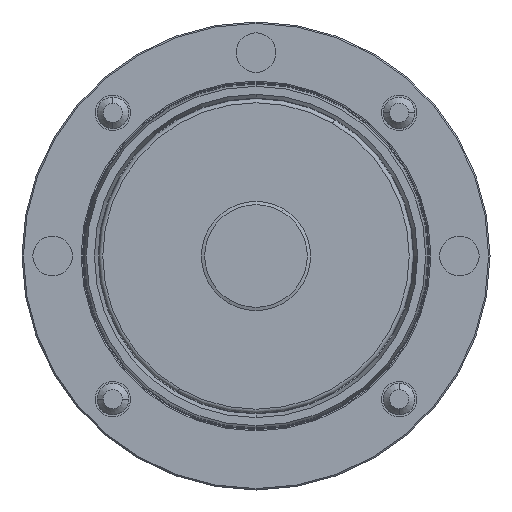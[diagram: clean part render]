
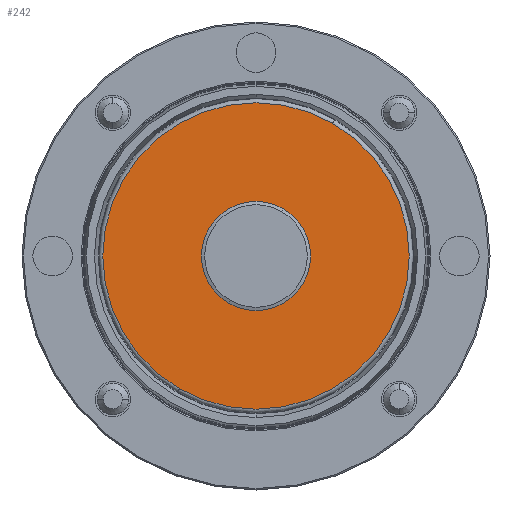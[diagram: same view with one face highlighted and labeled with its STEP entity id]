
A CAD part, front view. The second image highlights one B-rep face of the part: STEP entity #242.
In plain terms, the highlighted planar face has unit normal (0, -1, 0).
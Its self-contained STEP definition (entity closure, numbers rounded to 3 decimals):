
#80 = EDGE_CURVE ( 'NONE', #94, #156, #2665, .T. ) ;
#94 = VERTEX_POINT ( 'NONE', #2722 ) ;
#127 = EDGE_CURVE ( 'NONE', #145, #147, #2561, .T. ) ;
#145 = VERTEX_POINT ( 'NONE', #2798 ) ;
#147 = VERTEX_POINT ( 'NONE', #2814 ) ;
#156 = VERTEX_POINT ( 'NONE', #2843 ) ;
#231 = ORIENTED_EDGE ( 'NONE', *, *, #80, .T. ) ;
#235 = ORIENTED_EDGE ( 'NONE', *, *, #243, .T. ) ;
#242 = ADVANCED_FACE ( 'NONE', ( #2988, #3010 ), #2993, .F. ) ;
#243 = EDGE_CURVE ( 'NONE', #147, #145, #3006, .T. ) ;
#248 = EDGE_LOOP ( 'NONE', ( #235, #258 ) ) ;
#258 = ORIENTED_EDGE ( 'NONE', *, *, #127, .T. ) ;
#383 = ORIENTED_EDGE ( 'NONE', *, *, #388, .T. ) ;
#387 = EDGE_LOOP ( 'NONE', ( #231, #383 ) ) ;
#388 = EDGE_CURVE ( 'NONE', #156, #94, #3242, .T. ) ;
#1392 = DIRECTION ( 'NONE',  ( 0., 0., 1. ) ) ;
#2561 = CIRCLE ( 'NONE', #2580, 38.8 ) ;
#2566 = DIRECTION ( 'NONE',  ( 0., -1., 0. ) ) ;
#2567 = CARTESIAN_POINT ( 'NONE',  ( 0., -17.7, 0. ) ) ;
#2568 = DIRECTION ( 'NONE',  ( 0., 1., 0. ) ) ;
#2579 = CARTESIAN_POINT ( 'NONE',  ( 39.8, -17.7, 0. ) ) ;
#2580 = AXIS2_PLACEMENT_3D ( 'NONE', #2567, #2566, #1392 ) ;
#2665 = CIRCLE ( 'NONE', #2711, 13.824 ) ;
#2672 = DIRECTION ( 'NONE',  ( 0., 1., 0. ) ) ;
#2694 = DIRECTION ( 'NONE',  ( 0., 0., 1. ) ) ;
#2706 = CARTESIAN_POINT ( 'NONE',  ( 0., -17.7, 0. ) ) ;
#2711 = AXIS2_PLACEMENT_3D ( 'NONE', #2706, #2672, #2694 ) ;
#2722 = CARTESIAN_POINT ( 'NONE',  ( 0., -17.7, 13.824 ) ) ;
#2761 = DIRECTION ( 'NONE',  ( 0., 0., 1. ) ) ;
#2789 = DIRECTION ( 'NONE',  ( 0., 0., 1. ) ) ;
#2798 = CARTESIAN_POINT ( 'NONE',  ( 0., -17.7, -38.8 ) ) ;
#2814 = CARTESIAN_POINT ( 'NONE',  ( 0., -17.7, 38.8 ) ) ;
#2843 = CARTESIAN_POINT ( 'NONE',  ( 0., -17.7, -13.824 ) ) ;
#2979 = DIRECTION ( 'NONE',  ( 0., -1., 0. ) ) ;
#2980 = AXIS2_PLACEMENT_3D ( 'NONE', #2994, #2979, #2761 ) ;
#2988 = FACE_OUTER_BOUND ( 'NONE', #248, .T. ) ;
#2990 = AXIS2_PLACEMENT_3D ( 'NONE', #2579, #2568, #2789 ) ;
#2993 = PLANE ( 'NONE',  #2990 ) ;
#2994 = CARTESIAN_POINT ( 'NONE',  ( 0., -17.7, 0. ) ) ;
#3006 = CIRCLE ( 'NONE', #2980, 38.8 ) ;
#3010 = FACE_BOUND ( 'NONE', #387, .T. ) ;
#3231 = DIRECTION ( 'NONE',  ( 0., 0., 1. ) ) ;
#3232 = AXIS2_PLACEMENT_3D ( 'NONE', #3239, #3254, #3231 ) ;
#3239 = CARTESIAN_POINT ( 'NONE',  ( 0., -17.7, 0. ) ) ;
#3242 = CIRCLE ( 'NONE', #3232, 13.824 ) ;
#3254 = DIRECTION ( 'NONE',  ( 0., 1., 0. ) ) ;
